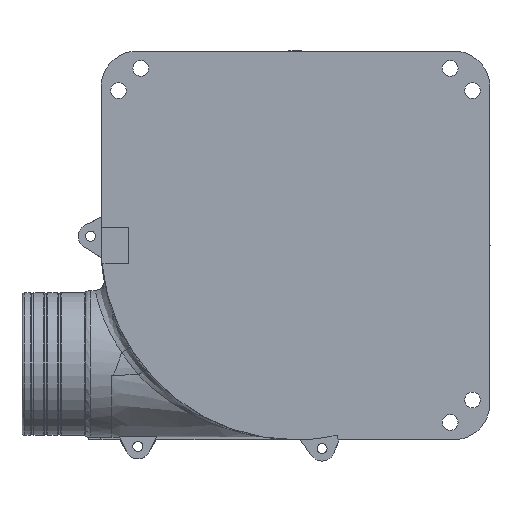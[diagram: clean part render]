
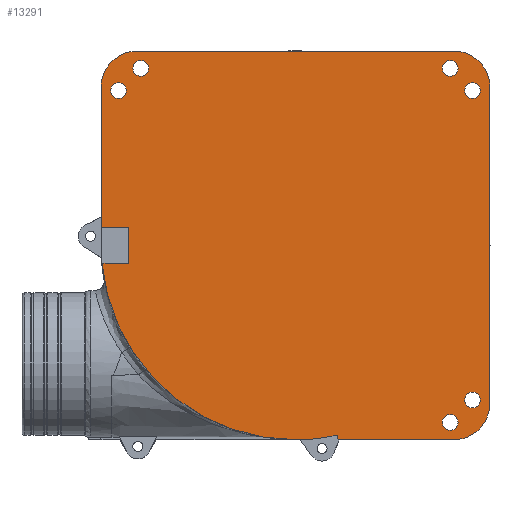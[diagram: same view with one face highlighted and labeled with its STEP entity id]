
A CAD part, front view. The second image highlights one B-rep face of the part: STEP entity #13291.
In plain terms, the highlighted planar face has unit normal (0, -1, 0).
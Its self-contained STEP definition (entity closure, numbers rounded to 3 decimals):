
#2858=DIRECTION('',(1.,0.,0.002));
#2859=VECTOR('',#2858,2.059);
#2860=CARTESIAN_POINT('',(9.463,-33.,-42.999));
#2861=LINE('',#2860,#2859);
#2887=CARTESIAN_POINT('',(0.,-33.,0.));
#2888=DIRECTION('',(0.,-1.,0.));
#2889=DIRECTION('',(-0.996,0.,-0.093));
#2890=AXIS2_PLACEMENT_3D('',#2887,#2888,#2889);
#3055=DIRECTION('',(0.,0.,-1.));
#3056=VECTOR('',#3055,31.);
#3057=CARTESIAN_POINT('',(-43.,-33.,35.));
#3058=LINE('',#3057,#3056);
#4947=CARTESIAN_POINT('',(-39.161,-33.,34.211));
#4948=DIRECTION('',(0.,-1.,0.));
#4949=DIRECTION('',(-1.,0.,0.));
#4950=AXIS2_PLACEMENT_3D('',#4947,#4948,#4949);
#4955=CARTESIAN_POINT('',(-39.161,-33.,34.211));
#4956=DIRECTION('',(0.,-1.,0.));
#4957=DIRECTION('',(1.,0.,0.));
#4958=AXIS2_PLACEMENT_3D('',#4955,#4956,#4957);
#4963=CARTESIAN_POINT('',(-34.211,-33.,39.161));
#4964=DIRECTION('',(0.,-1.,0.));
#4965=DIRECTION('',(-1.,0.,0.));
#4966=AXIS2_PLACEMENT_3D('',#4963,#4964,#4965);
#4971=CARTESIAN_POINT('',(-34.211,-33.,39.161));
#4972=DIRECTION('',(0.,-1.,0.));
#4973=DIRECTION('',(1.,0.,0.));
#4974=AXIS2_PLACEMENT_3D('',#4971,#4972,#4973);
#4979=CARTESIAN_POINT('',(39.161,-33.,-34.211));
#4980=DIRECTION('',(0.,-1.,0.));
#4981=DIRECTION('',(1.,0.,0.));
#4982=AXIS2_PLACEMENT_3D('',#4979,#4980,#4981);
#4987=CARTESIAN_POINT('',(39.161,-33.,-34.211));
#4988=DIRECTION('',(0.,-1.,0.));
#4989=DIRECTION('',(-1.,0.,0.));
#4990=AXIS2_PLACEMENT_3D('',#4987,#4988,#4989);
#4995=CARTESIAN_POINT('',(34.211,-33.,-39.161));
#4996=DIRECTION('',(0.,-1.,0.));
#4997=DIRECTION('',(1.,0.,0.));
#4998=AXIS2_PLACEMENT_3D('',#4995,#4996,#4997);
#5003=CARTESIAN_POINT('',(34.211,-33.,-39.161));
#5004=DIRECTION('',(0.,-1.,0.));
#5005=DIRECTION('',(-1.,0.,0.));
#5006=AXIS2_PLACEMENT_3D('',#5003,#5004,#5005);
#5011=CARTESIAN_POINT('',(34.211,-33.,39.161));
#5012=DIRECTION('',(0.,-1.,0.));
#5013=DIRECTION('',(0.,0.,1.));
#5014=AXIS2_PLACEMENT_3D('',#5011,#5012,#5013);
#5019=CARTESIAN_POINT('',(34.211,-33.,39.161));
#5020=DIRECTION('',(0.,-1.,0.));
#5021=DIRECTION('',(0.,0.,-1.));
#5022=AXIS2_PLACEMENT_3D('',#5019,#5020,#5021);
#5027=CARTESIAN_POINT('',(39.161,-33.,34.211));
#5028=DIRECTION('',(0.,-1.,0.));
#5029=DIRECTION('',(0.,0.,1.));
#5030=AXIS2_PLACEMENT_3D('',#5027,#5028,#5029);
#5035=CARTESIAN_POINT('',(39.161,-33.,34.211));
#5036=DIRECTION('',(0.,-1.,0.));
#5037=DIRECTION('',(0.,0.,-1.));
#5038=AXIS2_PLACEMENT_3D('',#5035,#5036,#5037);
#5043=CARTESIAN_POINT('',(-35.,-33.,35.));
#5044=DIRECTION('',(0.,1.,0.));
#5045=DIRECTION('',(-1.,0.,0.));
#5046=AXIS2_PLACEMENT_3D('',#5043,#5044,#5045);
#5051=DIRECTION('',(1.,0.,0.));
#5052=VECTOR('',#5051,70.);
#5053=CARTESIAN_POINT('',(-35.,-33.,43.));
#5054=LINE('',#5053,#5052);
#5058=CARTESIAN_POINT('',(35.,-33.,35.));
#5059=DIRECTION('',(0.,1.,0.));
#5060=DIRECTION('',(0.,0.,1.));
#5061=AXIS2_PLACEMENT_3D('',#5058,#5059,#5060);
#5066=DIRECTION('',(0.,0.,-1.));
#5067=VECTOR('',#5066,70.);
#5068=CARTESIAN_POINT('',(43.,-33.,35.));
#5069=LINE('',#5068,#5067);
#5073=CARTESIAN_POINT('',(35.,-33.,-35.));
#5074=DIRECTION('',(0.,1.,0.));
#5075=DIRECTION('',(1.,0.,0.));
#5076=AXIS2_PLACEMENT_3D('',#5073,#5074,#5075);
#5081=DIRECTION('',(-1.,0.,0.));
#5082=VECTOR('',#5081,23.33);
#5083=CARTESIAN_POINT('',(35.,-33.,-43.));
#5084=LINE('',#5083,#5082);
#5088=CARTESIAN_POINT('',(11.67,-33.,-41.5));
#5089=DIRECTION('',(0.,1.,0.));
#5090=DIRECTION('',(0.,0.,-1.));
#5091=AXIS2_PLACEMENT_3D('',#5088,#5089,#5090);
#5096=DIRECTION('',(-0.237,0.,0.971));
#5097=VECTOR('',#5096,1.029);
#5098=CARTESIAN_POINT('',(9.463,-33.,-42.999));
#5099=LINE('',#5098,#5097);
#5103=CARTESIAN_POINT('',(0.,-33.,0.));
#5104=DIRECTION('',(0.,1.,0.));
#5105=DIRECTION('',(0.214,0.,-0.977));
#5106=AXIS2_PLACEMENT_3D('',#5103,#5104,#5105);
#5111=DIRECTION('',(0.,0.,1.));
#5112=VECTOR('',#5111,8.);
#5113=CARTESIAN_POINT('',(-36.943,-33.,-4.));
#5114=LINE('',#5113,#5112);
#5202=DIRECTION('',(1.,0.,0.));
#5203=VECTOR('',#5202,6.057);
#5204=CARTESIAN_POINT('',(-43.,-33.,4.));
#5205=LINE('',#5204,#5203);
#5237=DIRECTION('',(-1.,0.,0.));
#5238=VECTOR('',#5237,5.871);
#5239=CARTESIAN_POINT('',(-36.943,-33.,-4.));
#5240=LINE('',#5239,#5238);
#5334=DIRECTION('',(1.,0.,0.005));
#5335=VECTOR('',#5334,0.913);
#5336=CARTESIAN_POINT('',(0.,-33.,-43.));
#5337=LINE('',#5336,#5335);
#8250=CARTESIAN_POINT('',(0.,-33.,-43.));
#8252=VERTEX_POINT('',#8250);
#8255=CARTESIAN_POINT('',(0.913,-33.,-42.995));
#8256=VERTEX_POINT('',#8255);
#8257=CARTESIAN_POINT('',(9.219,-33.,-42.));
#8258=VERTEX_POINT('',#8257);
#8477=CARTESIAN_POINT('',(-40.911,-33.,34.211));
#8478=CARTESIAN_POINT('',(-37.411,-33.,34.211));
#8479=VERTEX_POINT('',#8477);
#8480=VERTEX_POINT('',#8478);
#8481=CARTESIAN_POINT('',(-43.,-33.,35.));
#8482=CARTESIAN_POINT('',(-35.,-33.,43.));
#8483=VERTEX_POINT('',#8481);
#8484=VERTEX_POINT('',#8482);
#8485=CARTESIAN_POINT('',(35.,-33.,43.));
#8486=VERTEX_POINT('',#8485);
#8487=CARTESIAN_POINT('',(43.,-33.,35.));
#8488=VERTEX_POINT('',#8487);
#8489=CARTESIAN_POINT('',(43.,-33.,-35.));
#8490=VERTEX_POINT('',#8489);
#8491=CARTESIAN_POINT('',(35.,-33.,-43.));
#8492=VERTEX_POINT('',#8491);
#8493=CARTESIAN_POINT('',(11.67,-33.,-43.));
#8494=VERTEX_POINT('',#8493);
#8495=CARTESIAN_POINT('',(11.522,-33.,-42.993));
#8496=VERTEX_POINT('',#8495);
#8497=CARTESIAN_POINT('',(9.463,-33.,-42.999));
#8498=VERTEX_POINT('',#8497);
#8499=CARTESIAN_POINT('',(-35.961,-33.,39.161));
#8500=CARTESIAN_POINT('',(-32.461,-33.,39.161));
#8501=VERTEX_POINT('',#8499);
#8502=VERTEX_POINT('',#8500);
#8503=CARTESIAN_POINT('',(40.911,-33.,-34.211));
#8504=CARTESIAN_POINT('',(37.411,-33.,-34.211));
#8505=VERTEX_POINT('',#8503);
#8506=VERTEX_POINT('',#8504);
#8507=CARTESIAN_POINT('',(35.961,-33.,-39.161));
#8508=CARTESIAN_POINT('',(32.461,-33.,-39.161));
#8509=VERTEX_POINT('',#8507);
#8510=VERTEX_POINT('',#8508);
#8511=CARTESIAN_POINT('',(34.211,-33.,40.911));
#8512=CARTESIAN_POINT('',(34.211,-33.,37.411));
#8513=VERTEX_POINT('',#8511);
#8514=VERTEX_POINT('',#8512);
#8515=CARTESIAN_POINT('',(39.161,-33.,35.961));
#8516=CARTESIAN_POINT('',(39.161,-33.,32.461));
#8517=VERTEX_POINT('',#8515);
#8518=VERTEX_POINT('',#8516);
#9261=CARTESIAN_POINT('',(-42.814,-33.,-4.));
#9262=VERTEX_POINT('',#9261);
#9263=CARTESIAN_POINT('',(-36.943,-33.,-4.));
#9264=CARTESIAN_POINT('',(-36.943,-33.,4.));
#9265=VERTEX_POINT('',#9263);
#9266=VERTEX_POINT('',#9264);
#9269=CARTESIAN_POINT('',(-43.,-33.,4.));
#9270=VERTEX_POINT('',#9269);
#13225=CARTESIAN_POINT('',(0.,-33.,0.));
#13226=DIRECTION('',(0.,-1.,0.));
#13227=DIRECTION('',(0.,0.,-1.));
#13228=AXIS2_PLACEMENT_3D('',#13225,#13226,#13227);
#13229=PLANE('',#13228);
#13231=ORIENTED_EDGE('',*,*,#13230,.F.);
#13232=ORIENTED_EDGE('',*,*,#11702,.F.);
#13234=ORIENTED_EDGE('',*,*,#13233,.T.);
#13235=ORIENTED_EDGE('',*,*,#12371,.T.);
#13237=ORIENTED_EDGE('',*,*,#13236,.T.);
#13238=ORIENTED_EDGE('',*,*,#13122,.T.);
#13239=ORIENTED_EDGE('',*,*,#13219,.T.);
#13240=ORIENTED_EDGE('',*,*,#11492,.T.);
#13242=ORIENTED_EDGE('',*,*,#13241,.T.);
#13243=ORIENTED_EDGE('',*,*,#11583,.F.);
#13244=ORIENTED_EDGE('',*,*,#11603,.T.);
#13245=ORIENTED_EDGE('',*,*,#11625,.T.);
#13247=ORIENTED_EDGE('',*,*,#13246,.F.);
#13248=ORIENTED_EDGE('',*,*,#11617,.F.);
#13250=ORIENTED_EDGE('',*,*,#13249,.F.);
#13252=ORIENTED_EDGE('',*,*,#13251,.T.);
#13253=EDGE_LOOP('',(#13231,#13232,#13234,#13235,#13237,#13238,#13239,#13240,
#13242,#13243,#13244,#13245,#13247,#13248,#13250,#13252));
#13254=FACE_OUTER_BOUND('',#13253,.F.);
#13256=ORIENTED_EDGE('',*,*,#13255,.T.);
#13258=ORIENTED_EDGE('',*,*,#13257,.T.);
#13259=EDGE_LOOP('',(#13256,#13258));
#13260=FACE_BOUND('',#13259,.F.);
#13262=ORIENTED_EDGE('',*,*,#13261,.T.);
#13264=ORIENTED_EDGE('',*,*,#13263,.T.);
#13265=EDGE_LOOP('',(#13262,#13264));
#13266=FACE_BOUND('',#13265,.F.);
#13268=ORIENTED_EDGE('',*,*,#13267,.T.);
#13270=ORIENTED_EDGE('',*,*,#13269,.T.);
#13271=EDGE_LOOP('',(#13268,#13270));
#13272=FACE_BOUND('',#13271,.F.);
#13274=ORIENTED_EDGE('',*,*,#13273,.T.);
#13276=ORIENTED_EDGE('',*,*,#13275,.T.);
#13277=EDGE_LOOP('',(#13274,#13276));
#13278=FACE_BOUND('',#13277,.F.);
#13280=ORIENTED_EDGE('',*,*,#13279,.T.);
#13282=ORIENTED_EDGE('',*,*,#13281,.T.);
#13283=EDGE_LOOP('',(#13280,#13282));
#13284=FACE_BOUND('',#13283,.F.);
#13286=ORIENTED_EDGE('',*,*,#13285,.T.);
#13288=ORIENTED_EDGE('',*,*,#13287,.T.);
#13289=EDGE_LOOP('',(#13286,#13288));
#13290=FACE_BOUND('',#13289,.F.);
#13291=ADVANCED_FACE('',(#13254,#13260,#13266,#13272,#13278,#13284,#13290),
#13229,.T.);
#2891=CIRCLE('',#2890,43.);
#4951=CIRCLE('',#4950,1.75);
#4959=CIRCLE('',#4958,1.75);
#4967=CIRCLE('',#4966,1.75);
#4975=CIRCLE('',#4974,1.75);
#4983=CIRCLE('',#4982,1.75);
#4991=CIRCLE('',#4990,1.75);
#4999=CIRCLE('',#4998,1.75);
#5007=CIRCLE('',#5006,1.75);
#5015=CIRCLE('',#5014,1.75);
#5023=CIRCLE('',#5022,1.75);
#5031=CIRCLE('',#5030,1.75);
#5039=CIRCLE('',#5038,1.75);
#5047=CIRCLE('',#5046,8.);
#5062=CIRCLE('',#5061,8.);
#5077=CIRCLE('',#5076,8.);
#5092=CIRCLE('',#5091,1.5);
#5107=CIRCLE('',#5106,43.);
#11492=EDGE_CURVE('',#8492,#8494,#5084,.T.);
#11583=EDGE_CURVE('',#8498,#8496,#2861,.T.);
#11603=EDGE_CURVE('',#8498,#8258,#5099,.T.);
#11617=EDGE_CURVE('',#9262,#8252,#2891,.T.);
#11625=EDGE_CURVE('',#8258,#8256,#5107,.T.);
#11702=EDGE_CURVE('',#8483,#9270,#3058,.T.);
#12371=EDGE_CURVE('',#8484,#8486,#5054,.T.);
#13122=EDGE_CURVE('',#8488,#8490,#5069,.T.);
#13219=EDGE_CURVE('',#8490,#8492,#5077,.T.);
#13230=EDGE_CURVE('',#9270,#9266,#5205,.T.);
#13233=EDGE_CURVE('',#8483,#8484,#5047,.T.);
#13236=EDGE_CURVE('',#8486,#8488,#5062,.T.);
#13241=EDGE_CURVE('',#8494,#8496,#5092,.T.);
#13246=EDGE_CURVE('',#8252,#8256,#5337,.T.);
#13249=EDGE_CURVE('',#9265,#9262,#5240,.T.);
#13251=EDGE_CURVE('',#9265,#9266,#5114,.T.);
#13255=EDGE_CURVE('',#8501,#8502,#4967,.T.);
#13257=EDGE_CURVE('',#8502,#8501,#4975,.T.);
#13261=EDGE_CURVE('',#8505,#8506,#4983,.T.);
#13263=EDGE_CURVE('',#8506,#8505,#4991,.T.);
#13267=EDGE_CURVE('',#8509,#8510,#4999,.T.);
#13269=EDGE_CURVE('',#8510,#8509,#5007,.T.);
#13273=EDGE_CURVE('',#8513,#8514,#5015,.T.);
#13275=EDGE_CURVE('',#8514,#8513,#5023,.T.);
#13279=EDGE_CURVE('',#8517,#8518,#5031,.T.);
#13281=EDGE_CURVE('',#8518,#8517,#5039,.T.);
#13285=EDGE_CURVE('',#8479,#8480,#4951,.T.);
#13287=EDGE_CURVE('',#8480,#8479,#4959,.T.);
